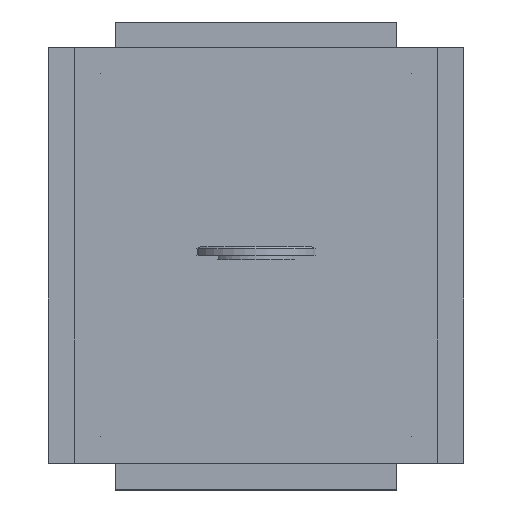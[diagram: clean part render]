
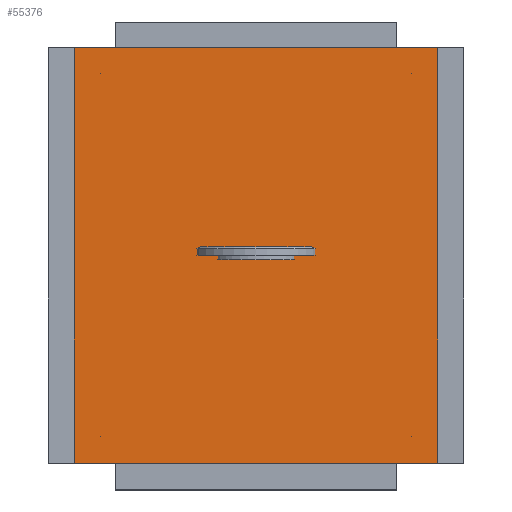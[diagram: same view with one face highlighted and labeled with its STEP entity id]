
A CAD part, top view. The second image highlights one B-rep face of the part: STEP entity #55376.
In plain terms, the highlighted planar face has unit normal (0, 0, 1).
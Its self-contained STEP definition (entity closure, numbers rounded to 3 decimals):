
#55062 = VERTEX_POINT('',#55063);
#55063 = CARTESIAN_POINT('',(-173.,-198.,402.));
#55070 = PLANE('',#55071);
#55071 = AXIS2_PLACEMENT_3D('',#55072,#55073,#55074);
#55072 = CARTESIAN_POINT('',(-173.,-198.,392.));
#55073 = DIRECTION('',(1.,0.,0.));
#55074 = DIRECTION('',(0.,0.,1.));
#55082 = PLANE('',#55083);
#55083 = AXIS2_PLACEMENT_3D('',#55084,#55085,#55086);
#55084 = CARTESIAN_POINT('',(-173.,-198.,392.));
#55085 = DIRECTION('',(0.,1.,0.));
#55086 = DIRECTION('',(0.,0.,1.));
#55123 = VERTEX_POINT('',#55124);
#55124 = CARTESIAN_POINT('',(-173.,198.,402.));
#55138 = PLANE('',#55139);
#55139 = AXIS2_PLACEMENT_3D('',#55140,#55141,#55142);
#55140 = CARTESIAN_POINT('',(-173.,198.,392.));
#55141 = DIRECTION('',(0.,1.,0.));
#55142 = DIRECTION('',(0.,0.,1.));
#55150 = EDGE_CURVE('',#55062,#55123,#55151,.T.);
#55151 = SURFACE_CURVE('',#55152,(#55156,#55163),.PCURVE_S1.);
#55152 = LINE('',#55153,#55154);
#55153 = CARTESIAN_POINT('',(-173.,-198.,402.));
#55154 = VECTOR('',#55155,1.);
#55155 = DIRECTION('',(0.,1.,0.));
#55156 = PCURVE('',#55070,#55157);
#55157 = DEFINITIONAL_REPRESENTATION('',(#55158),#55162);
#55158 = LINE('',#55159,#55160);
#55159 = CARTESIAN_POINT('',(10.,0.));
#55160 = VECTOR('',#55161,1.);
#55161 = DIRECTION('',(0.,-1.));
#55162 = ( GEOMETRIC_REPRESENTATION_CONTEXT(2) 
PARAMETRIC_REPRESENTATION_CONTEXT() REPRESENTATION_CONTEXT('2D SPACE',''
  ) );
#55163 = PCURVE('',#55164,#55169);
#55164 = PLANE('',#55165);
#55165 = AXIS2_PLACEMENT_3D('',#55166,#55167,#55168);
#55166 = CARTESIAN_POINT('',(-173.,-198.,402.));
#55167 = DIRECTION('',(0.,0.,1.));
#55168 = DIRECTION('',(1.,0.,0.));
#55169 = DEFINITIONAL_REPRESENTATION('',(#55170),#55174);
#55170 = LINE('',#55171,#55172);
#55171 = CARTESIAN_POINT('',(0.,0.));
#55172 = VECTOR('',#55173,1.);
#55173 = DIRECTION('',(0.,1.));
#55174 = ( GEOMETRIC_REPRESENTATION_CONTEXT(2) 
PARAMETRIC_REPRESENTATION_CONTEXT() REPRESENTATION_CONTEXT('2D SPACE',''
  ) );
#55182 = VERTEX_POINT('',#55183);
#55183 = CARTESIAN_POINT('',(173.,-198.,402.));
#55190 = PLANE('',#55191);
#55191 = AXIS2_PLACEMENT_3D('',#55192,#55193,#55194);
#55192 = CARTESIAN_POINT('',(173.,-198.,392.));
#55193 = DIRECTION('',(1.,0.,0.));
#55194 = DIRECTION('',(0.,0.,1.));
#55233 = VERTEX_POINT('',#55234);
#55234 = CARTESIAN_POINT('',(173.,198.,402.));
#55255 = EDGE_CURVE('',#55182,#55233,#55256,.T.);
#55256 = SURFACE_CURVE('',#55257,(#55261,#55268),.PCURVE_S1.);
#55257 = LINE('',#55258,#55259);
#55258 = CARTESIAN_POINT('',(173.,-198.,402.));
#55259 = VECTOR('',#55260,1.);
#55260 = DIRECTION('',(0.,1.,0.));
#55261 = PCURVE('',#55190,#55262);
#55262 = DEFINITIONAL_REPRESENTATION('',(#55263),#55267);
#55263 = LINE('',#55264,#55265);
#55264 = CARTESIAN_POINT('',(10.,0.));
#55265 = VECTOR('',#55266,1.);
#55266 = DIRECTION('',(0.,-1.));
#55267 = ( GEOMETRIC_REPRESENTATION_CONTEXT(2) 
PARAMETRIC_REPRESENTATION_CONTEXT() REPRESENTATION_CONTEXT('2D SPACE',''
  ) );
#55268 = PCURVE('',#55164,#55269);
#55269 = DEFINITIONAL_REPRESENTATION('',(#55270),#55274);
#55270 = LINE('',#55271,#55272);
#55271 = CARTESIAN_POINT('',(346.,0.));
#55272 = VECTOR('',#55273,1.);
#55273 = DIRECTION('',(0.,1.));
#55274 = ( GEOMETRIC_REPRESENTATION_CONTEXT(2) 
PARAMETRIC_REPRESENTATION_CONTEXT() REPRESENTATION_CONTEXT('2D SPACE',''
  ) );
#55301 = EDGE_CURVE('',#55062,#55182,#55302,.T.);
#55302 = SURFACE_CURVE('',#55303,(#55307,#55314),.PCURVE_S1.);
#55303 = LINE('',#55304,#55305);
#55304 = CARTESIAN_POINT('',(-173.,-198.,402.));
#55305 = VECTOR('',#55306,1.);
#55306 = DIRECTION('',(1.,0.,0.));
#55307 = PCURVE('',#55082,#55308);
#55308 = DEFINITIONAL_REPRESENTATION('',(#55309),#55313);
#55309 = LINE('',#55310,#55311);
#55310 = CARTESIAN_POINT('',(10.,0.));
#55311 = VECTOR('',#55312,1.);
#55312 = DIRECTION('',(0.,1.));
#55313 = ( GEOMETRIC_REPRESENTATION_CONTEXT(2) 
PARAMETRIC_REPRESENTATION_CONTEXT() REPRESENTATION_CONTEXT('2D SPACE',''
  ) );
#55314 = PCURVE('',#55164,#55315);
#55315 = DEFINITIONAL_REPRESENTATION('',(#55316),#55320);
#55316 = LINE('',#55317,#55318);
#55317 = CARTESIAN_POINT('',(0.,0.));
#55318 = VECTOR('',#55319,1.);
#55319 = DIRECTION('',(1.,0.));
#55320 = ( GEOMETRIC_REPRESENTATION_CONTEXT(2) 
PARAMETRIC_REPRESENTATION_CONTEXT() REPRESENTATION_CONTEXT('2D SPACE',''
  ) );
#55348 = EDGE_CURVE('',#55123,#55233,#55349,.T.);
#55349 = SURFACE_CURVE('',#55350,(#55354,#55361),.PCURVE_S1.);
#55350 = LINE('',#55351,#55352);
#55351 = CARTESIAN_POINT('',(-173.,198.,402.));
#55352 = VECTOR('',#55353,1.);
#55353 = DIRECTION('',(1.,0.,0.));
#55354 = PCURVE('',#55138,#55355);
#55355 = DEFINITIONAL_REPRESENTATION('',(#55356),#55360);
#55356 = LINE('',#55357,#55358);
#55357 = CARTESIAN_POINT('',(10.,0.));
#55358 = VECTOR('',#55359,1.);
#55359 = DIRECTION('',(0.,1.));
#55360 = ( GEOMETRIC_REPRESENTATION_CONTEXT(2) 
PARAMETRIC_REPRESENTATION_CONTEXT() REPRESENTATION_CONTEXT('2D SPACE',''
  ) );
#55361 = PCURVE('',#55164,#55362);
#55362 = DEFINITIONAL_REPRESENTATION('',(#55363),#55367);
#55363 = LINE('',#55364,#55365);
#55364 = CARTESIAN_POINT('',(0.,396.));
#55365 = VECTOR('',#55366,1.);
#55366 = DIRECTION('',(1.,0.));
#55367 = ( GEOMETRIC_REPRESENTATION_CONTEXT(2) 
PARAMETRIC_REPRESENTATION_CONTEXT() REPRESENTATION_CONTEXT('2D SPACE',''
  ) );
#55376 = ADVANCED_FACE('',(#55377),#55164,.T.);
#55377 = FACE_BOUND('',#55378,.T.);
#55378 = EDGE_LOOP('',(#55379,#55380,#55381,#55382));
#55379 = ORIENTED_EDGE('',*,*,#55150,.F.);
#55380 = ORIENTED_EDGE('',*,*,#55301,.T.);
#55381 = ORIENTED_EDGE('',*,*,#55255,.T.);
#55382 = ORIENTED_EDGE('',*,*,#55348,.F.);
